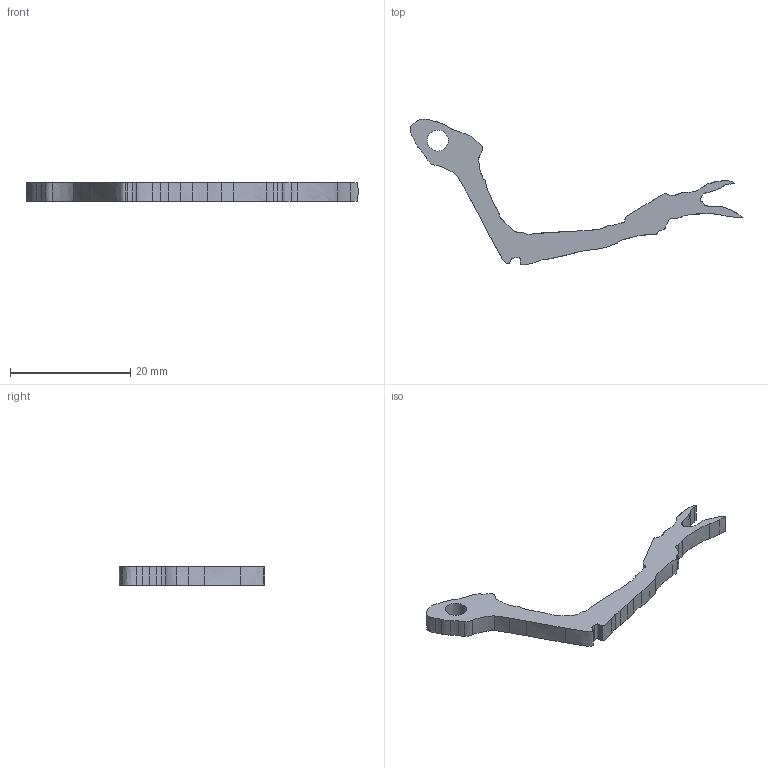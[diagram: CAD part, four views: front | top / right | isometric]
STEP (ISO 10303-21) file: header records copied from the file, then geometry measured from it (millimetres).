
FILE_DESCRIPTION(/* description */ (''),/* implementation_level */ '2;1');
FILE_NAME(/* name */ 'C:/Users/Ulises/Desktop/T1/mecanica_cad/trex.step',/* time_stamp */ '2020-10-16T01:35:37-03:00',/* author */ (''),/* organization */ (''),/* preprocessor_version */ 'ST-DEVELOPER v18.1',/* originating_system */ 'Autodesk Translation Framework v9.3.0.1241',/* authorisation */ '');
FILE_SCHEMA (('AUTOMOTIVE_DESIGN { 1 0 10303 214 3 1 1 }'));
Length unit declared in the file: millimetre
Products named in the file (1): trex
Bounding box: 55.23 x 24.24 x 3 mm (x, y, z)
Volume: 767.3 mm3; surface area: 1010.7 mm2
Topology: 1 solids, 1 shells, 81 faces, 237 edges, 158 vertices
Faces by surface type: bspline 77, plane 3, cylinder 1
Full cylindrical faces by diameter (mm): 3.5 x1
Entity records: 3835 total; most frequent: CARTESIAN_POINT 2178, ORIENTED_EDGE 474, EDGE_CURVE 237, VERTEX_POINT 158, B_SPLINE_CURVE_WITH_KNOTS 150, DIRECTION 95, EDGE_LOOP 83, FACE_OUTER_BOUND 81
